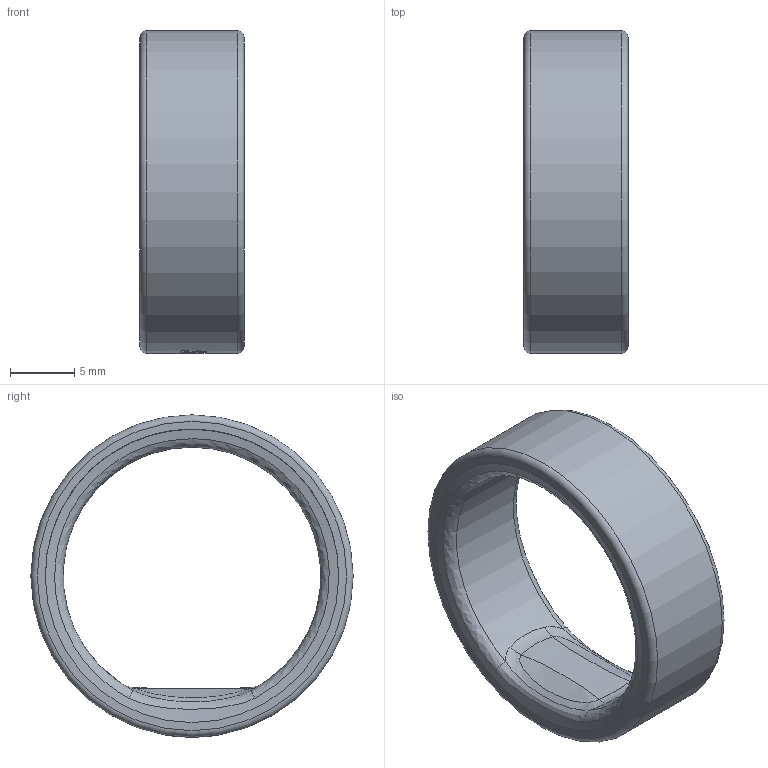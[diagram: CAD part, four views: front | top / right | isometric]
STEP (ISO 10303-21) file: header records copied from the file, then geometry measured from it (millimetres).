
FILE_DESCRIPTION(/* description */ (''),/* implementation_level */ '2;1');
FILE_NAME(/* name */ 'Size 09_Sizing Kit v4.step',/* time_stamp */ '2024-05-07T15:26:31+05:30',/* author */ (''),/* organization */ (''),/* preprocessor_version */ 'ST-DEVELOPER v20',/* originating_system */ 'Autodesk Translation Framework v12.20.1.177',/* authorisation */ '');
FILE_SCHEMA (('AUTOMOTIVE_DESIGN { 1 0 10303 214 3 1 1 }'));
Length unit declared in the file: millimetre
Products named in the file (2): Size 09_Sizing Kit; S09 v9
Assembly tree (1 placements, depth 2):
  Size 09_Sizing Kit
    S09 v9
Bounding box: 8.1 x 25.08 x 25.08 mm (x, y, z)
Volume: 1431.1 mm3; surface area: 1685.4 mm2
Topology: 1 solids, 3 shells, 113 faces, 301 edges, 199 vertices
Faces by surface type: bspline 85, cylinder 12, plane 12, cone 2, torus 2
Full cylindrical faces by diameter (mm): 24.38 x2, 25.081 x1
Entity records: 6822 total; most frequent: CARTESIAN_POINT 4482, ORIENTED_EDGE 602, EDGE_CURVE 301, DIRECTION 243, VERTEX_POINT 199, B_SPLINE_CURVE_WITH_KNOTS 168, EDGE_LOOP 124, FACE_OUTER_BOUND 113
